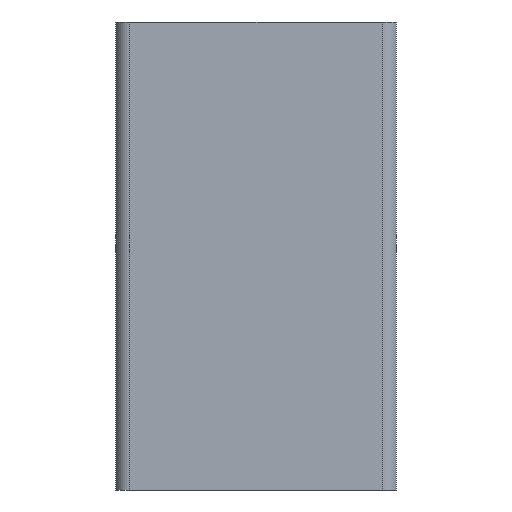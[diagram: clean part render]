
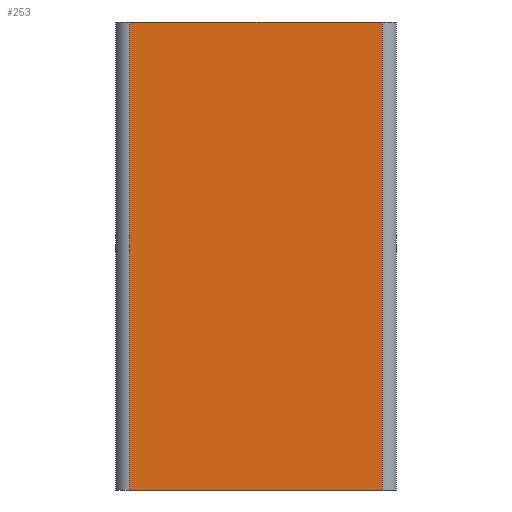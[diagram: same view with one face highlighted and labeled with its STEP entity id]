
A CAD part, front view. The second image highlights one B-rep face of the part: STEP entity #253.
In plain terms, the highlighted planar face has unit normal (0, -1, 0).
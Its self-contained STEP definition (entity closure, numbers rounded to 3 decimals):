
#253=ADVANCED_FACE('',(#514),#515,.F.);
#514=FACE_OUTER_BOUND('',#775,.T.);
#515=PLANE('',#776);
#775=EDGE_LOOP('',(#1542,#1543,#1544,#1545));
#776=AXIS2_PLACEMENT_3D('',#1546,#1547,#1548);
#1542=ORIENTED_EDGE('',*,*,#1911,.T.);
#1543=ORIENTED_EDGE('',*,*,#1668,.F.);
#1544=ORIENTED_EDGE('',*,*,#1763,.F.);
#1545=ORIENTED_EDGE('',*,*,#1637,.T.);
#1546=CARTESIAN_POINT('',(1.5,0.,50.0));
#1547=DIRECTION('',(0.0,1.0,0.0));
#1548=DIRECTION('',(0.0,0.0,-1.0));
#1637=EDGE_CURVE('',#1974,#1972,#1975,.T.);
#1668=EDGE_CURVE('',#2027,#2022,#2029,.T.);
#1763=EDGE_CURVE('',#1974,#2027,#2184,.T.);
#1911=EDGE_CURVE('',#1972,#2022,#2395,.T.);
#1972=VERTEX_POINT('',#2466);
#1974=VERTEX_POINT('',#2468);
#1975=LINE('',#2469,#2470);
#2022=VERTEX_POINT('',#2531);
#2027=VERTEX_POINT('',#2537);
#2029=LINE('',#2539,#2540);
#2184=LINE('',#2748,#2749);
#2395=LINE('',#3031,#3032);
#2466=CARTESIAN_POINT('',(1.5,0.,0.0));
#2468=CARTESIAN_POINT('',(1.5,0.,50.0));
#2469=CARTESIAN_POINT('',(1.5,0.,50.0));
#2470=VECTOR('',#3102,1.0);
#2531=CARTESIAN_POINT('',(28.5,0.,0.0));
#2537=CARTESIAN_POINT('',(28.5,0.,50.0));
#2539=CARTESIAN_POINT('',(28.5,0.,50.0));
#2540=VECTOR('',#3145,1.0);
#2748=CARTESIAN_POINT('',(1.5,0.,50.0));
#2749=VECTOR('',#3265,1.0);
#3031=CARTESIAN_POINT('',(1.5,0.,0.0));
#3032=VECTOR('',#3457,1.0);
#3102=DIRECTION('',(0.0,0.0,-1.0));
#3145=DIRECTION('',(0.0,0.0,-1.0));
#3265=DIRECTION('',(1.0,0.0,0.0));
#3457=DIRECTION('',(1.0,0.0,0.0));
